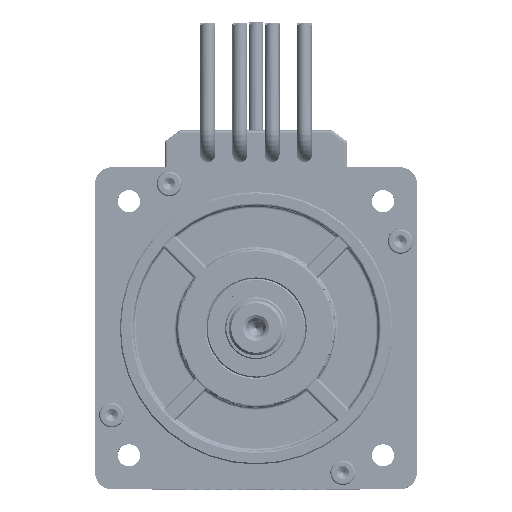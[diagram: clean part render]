
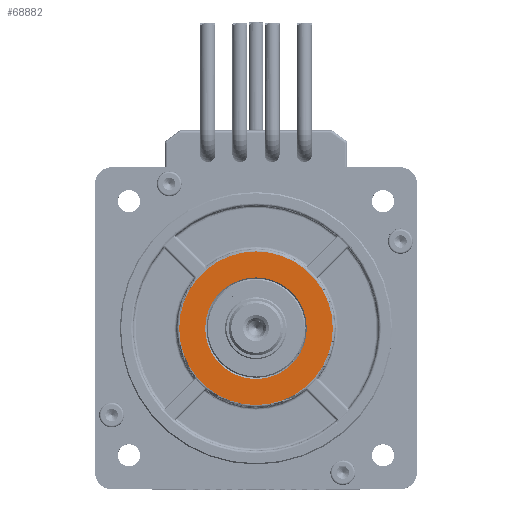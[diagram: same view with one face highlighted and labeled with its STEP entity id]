
A CAD part, top view. The second image highlights one B-rep face of the part: STEP entity #68882.
In plain terms, the highlighted planar face has unit normal (0, 0, 1).
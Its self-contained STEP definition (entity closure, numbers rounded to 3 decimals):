
#2697 = EDGE_LOOP ( 'NONE', ( #57721, #38719 ) ) ;
#3332 = CARTESIAN_POINT ( 'NONE',  ( 0., 0., 74. ) ) ;
#4803 = CIRCLE ( 'NONE', #83283, 31. ) ;
#7431 = CARTESIAN_POINT ( 'NONE',  ( 0., -31., 74. ) ) ;
#9125 = VERTEX_POINT ( 'NONE', #129188 ) ;
#13464 = DIRECTION ( 'NONE',  ( 0., 0., 1. ) ) ;
#18756 = CIRCLE ( 'NONE', #52232, 31. ) ;
#24157 = CARTESIAN_POINT ( 'NONE',  ( 58.113, -58.113, 74. ) ) ;
#25620 = AXIS2_PLACEMENT_3D ( 'NONE', #24157, #124650, #64017 ) ;
#25623 = CARTESIAN_POINT ( 'NONE',  ( 0., 0., 74. ) ) ;
#25679 = AXIS2_PLACEMENT_3D ( 'NONE', #31332, #111726, #61578 ) ;
#29378 = EDGE_CURVE ( 'NONE', #126712, #105468, #18756, .T. ) ;
#30254 = EDGE_LOOP ( 'NONE', ( #112940, #77840 ) ) ;
#31332 = CARTESIAN_POINT ( 'NONE',  ( 0., 0., 74. ) ) ;
#32015 = EDGE_CURVE ( 'NONE', #9125, #98682, #40105, .T. ) ;
#37128 = FACE_BOUND ( 'NONE', #30254, .T. ) ;
#38719 = ORIENTED_EDGE ( 'NONE', *, *, #29378, .T. ) ;
#40105 = CIRCLE ( 'NONE', #25679, 20.5 ) ;
#45358 = DIRECTION ( 'NONE',  ( 0., 0., -1. ) ) ;
#51286 = FACE_OUTER_BOUND ( 'NONE', #2697, .T. ) ;
#52232 = AXIS2_PLACEMENT_3D ( 'NONE', #3332, #13464, #83666 ) ;
#55840 = DIRECTION ( 'NONE',  ( 0., -1., 0. ) ) ;
#57721 = ORIENTED_EDGE ( 'NONE', *, *, #66015, .T. ) ;
#61578 = DIRECTION ( 'NONE',  ( 0., -1., 0. ) ) ;
#64017 = DIRECTION ( 'NONE',  ( 0., -1., 0. ) ) ;
#66015 = EDGE_CURVE ( 'NONE', #105468, #126712, #4803, .T. ) ;
#68882 = ADVANCED_FACE ( 'NONE', ( #51286, #37128 ), #83396, .F. ) ;
#76783 = CARTESIAN_POINT ( 'NONE',  ( 0., -20.5, 74. ) ) ;
#76917 = CARTESIAN_POINT ( 'NONE',  ( 0., 0., 74. ) ) ;
#77840 = ORIENTED_EDGE ( 'NONE', *, *, #84898, .T. ) ;
#83283 = AXIS2_PLACEMENT_3D ( 'NONE', #25623, #116041, #55840 ) ;
#83396 = PLANE ( 'NONE',  #25620 ) ;
#83666 = DIRECTION ( 'NONE',  ( 0., -1., 0. ) ) ;
#84898 = EDGE_CURVE ( 'NONE', #98682, #9125, #107629, .T. ) ;
#98682 = VERTEX_POINT ( 'NONE', #76783 ) ;
#105468 = VERTEX_POINT ( 'NONE', #7431 ) ;
#105574 = DIRECTION ( 'NONE',  ( 0., -1., 0. ) ) ;
#107629 = CIRCLE ( 'NONE', #127343, 20.5 ) ;
#111726 = DIRECTION ( 'NONE',  ( 0., 0., -1. ) ) ;
#112940 = ORIENTED_EDGE ( 'NONE', *, *, #32015, .T. ) ;
#116041 = DIRECTION ( 'NONE',  ( 0., 0., 1. ) ) ;
#124650 = DIRECTION ( 'NONE',  ( 0., 0., -1. ) ) ;
#125518 = CARTESIAN_POINT ( 'NONE',  ( 0., 31., 74. ) ) ;
#126712 = VERTEX_POINT ( 'NONE', #125518 ) ;
#127343 = AXIS2_PLACEMENT_3D ( 'NONE', #76917, #45358, #105574 ) ;
#129188 = CARTESIAN_POINT ( 'NONE',  ( 0., 20.5, 74. ) ) ;
